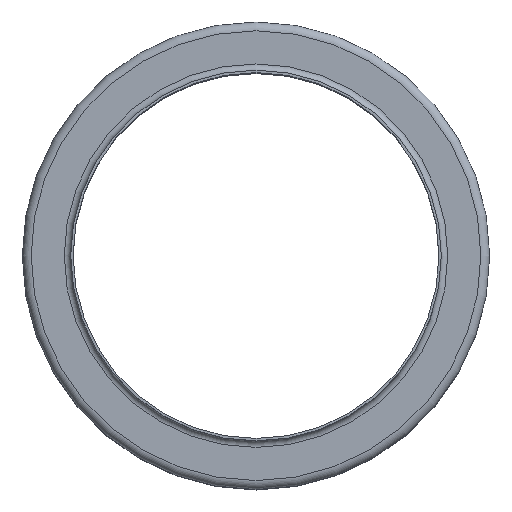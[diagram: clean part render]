
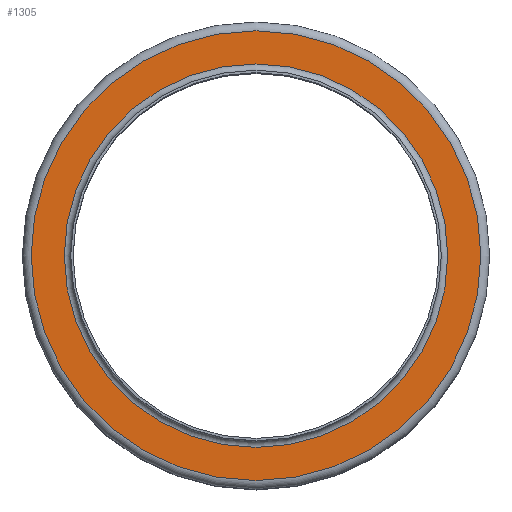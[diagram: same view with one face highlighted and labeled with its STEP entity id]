
A CAD part, top view. The second image highlights one B-rep face of the part: STEP entity #1305.
In plain terms, the highlighted planar face has unit normal (0, 0, 1).
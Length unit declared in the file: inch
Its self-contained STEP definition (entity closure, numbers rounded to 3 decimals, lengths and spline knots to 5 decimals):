
#130=FACE_BOUND('',#384,.T.);
#229=FACE_OUTER_BOUND('',#383,.T.);
#383=EDGE_LOOP('',(#1108));
#384=EDGE_LOOP('',(#1109));
#545=CIRCLE('',#1574,2.35875);
#546=CIRCLE('',#1576,2.76625);
#658=VERTEX_POINT('',#2470);
#659=VERTEX_POINT('',#2474);
#811=EDGE_CURVE('',#658,#658,#545,.T.);
#812=EDGE_CURVE('',#659,#659,#546,.T.);
#1108=ORIENTED_EDGE('',*,*,#812,.F.);
#1109=ORIENTED_EDGE('',*,*,#811,.T.);
#1206=PLANE('',#1575);
#1305=ADVANCED_FACE('',(#229,#130),#1206,.T.);
#1574=AXIS2_PLACEMENT_3D('',#2472,#2070,#2071);
#1575=AXIS2_PLACEMENT_3D('',#2473,#2072,#2073);
#1576=AXIS2_PLACEMENT_3D('',#2475,#2074,#2075);
#2070=DIRECTION('center_axis',(0.,0.,-1.));
#2071=DIRECTION('ref_axis',(1.,0.,0.));
#2072=DIRECTION('center_axis',(0.,0.,1.));
#2073=DIRECTION('ref_axis',(1.,0.,0.));
#2074=DIRECTION('center_axis',(0.,0.,-1.));
#2075=DIRECTION('ref_axis',(1.,0.,0.));
#2470=CARTESIAN_POINT('',(2.35875,0.,-0.07875));
#2472=CARTESIAN_POINT('Origin',(0.,0.,-0.07875));
#2473=CARTESIAN_POINT('Origin',(0.,2.76625,-0.07875));
#2474=CARTESIAN_POINT('',(2.76625,0.,-0.07875));
#2475=CARTESIAN_POINT('Origin',(0.,0.,-0.07875));
